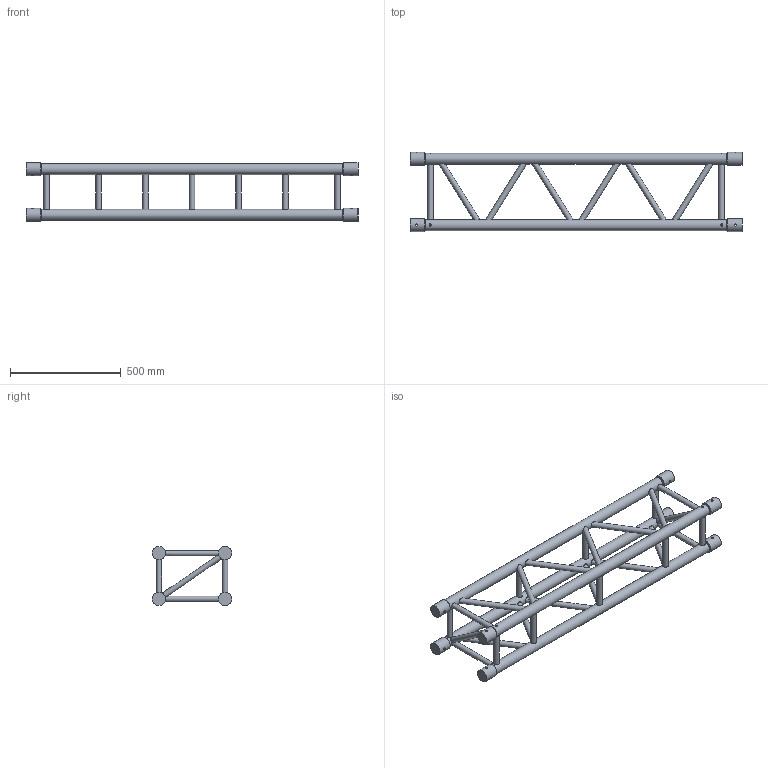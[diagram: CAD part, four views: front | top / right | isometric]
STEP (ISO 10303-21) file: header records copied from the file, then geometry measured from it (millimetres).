
FILE_DESCRIPTION(/* description */ (''),/* implementation_level */ '2;1');
FILE_NAME(/* name */ 'C:\Users\adrian.toca\Desktop\111110047.stp',/* time_stamp */ '2016-09-14T12:13:44+03:00',/* author */ ('adrian.toca'),/* organization */ (''),/* preprocessor_version */ 'ST-DEVELOPER v15.6',/* originating_system */ 'Autodesk Inventor 2015',/* authorisation */ '');
FILE_SCHEMA (('AUTOMOTIVE_DESIGN { 1 0 10303 214 3 1 1 }'));
Length unit declared in the file: millimetre
Products named in the file (1): 260030903
Bounding box: 1500 x 357.8 x 265.8 mm (x, y, z)
Volume: 15208287.7 mm3; surface area: 1535064.3 mm2
Topology: 12 solids, 19 shells, 199 faces, 383 edges, 234 vertices
Faces by surface type: cylinder 103, plane 88, cone 8
Full cylindrical faces by diameter (mm): 10 x8, 25 x27, 50 x4, 58.8 x8
Entity records: 6485 total; most frequent: CARTESIAN_POINT 2842, DIRECTION 678, ORIENTED_EDGE 608, EDGE_LOOP 320, AXIS2_PLACEMENT_3D 320, EDGE_CURVE 270, VERTEX_POINT 196, STYLED_ITEM 176
